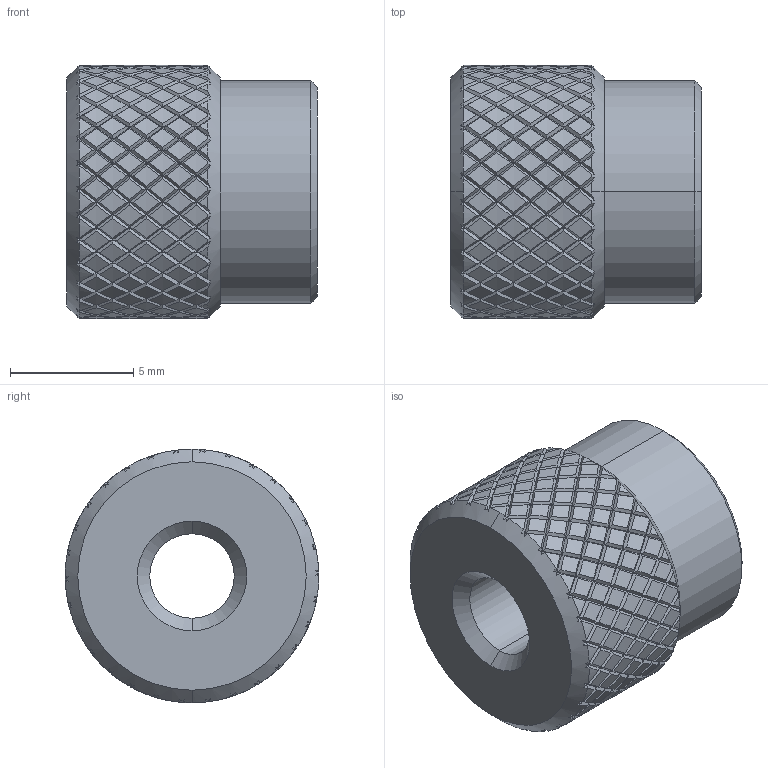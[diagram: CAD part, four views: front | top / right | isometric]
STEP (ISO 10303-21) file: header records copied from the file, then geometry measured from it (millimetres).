
FILE_DESCRIPTION (( 'STEP AP214' ), '1' );
FILE_NAME ('KB187-100.STEP', '2013-08-21T17:07:53', ( 'workpc' ), ( 'Microsoft' ), 'SwSTEP 2.0', 'SolidWorks 2013', '' );
FILE_SCHEMA (( 'AUTOMOTIVE_DESIGN' ));
Length unit declared in the file: inch
Products named in the file (1): KB187-100
Bounding box: 10.16 x 10.29 x 10.29 mm (x, y, z)
Volume: 612 mm3; surface area: 603 mm2
Topology: 1 solids, 1 shells, 1379 faces, 2917 edges, 1542 vertices
Faces by surface type: bspline 1080, cylinder 285, cone 10, plane 4
Entity records: 60791 total; most frequent: CARTESIAN_POINT 43851, ORIENTED_EDGE 5834, EDGE_CURVE 2917, VERTEX_POINT 1542, EDGE_LOOP 1383, ADVANCED_FACE 1379, FACE_OUTER_BOUND 1379, DIRECTION 857
